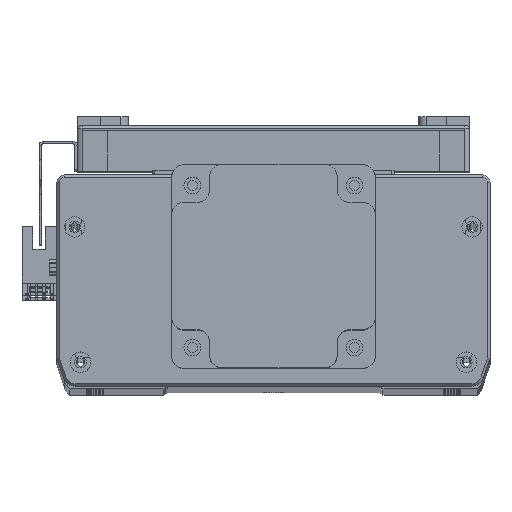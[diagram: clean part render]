
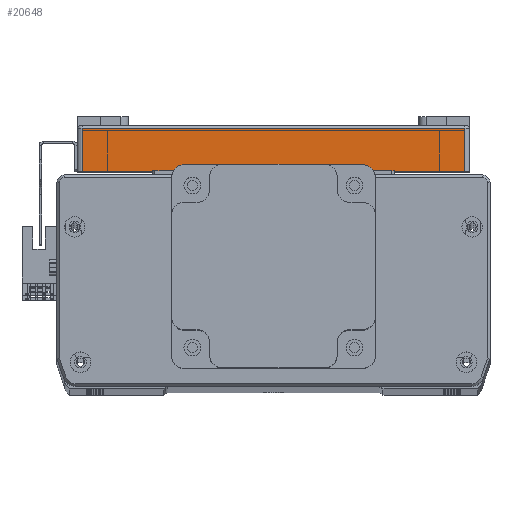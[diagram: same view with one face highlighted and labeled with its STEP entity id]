
A CAD part, top view. The second image highlights one B-rep face of the part: STEP entity #20648.
In plain terms, the highlighted planar face has unit normal (0, 0, 1) as drawn and (-1, 0, 0) by its records, which use the part's own axes.
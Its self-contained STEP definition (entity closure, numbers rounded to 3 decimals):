
#3165 = EDGE_LOOP ( 'NONE', ( #62923, #62898, #62919, #62773 ) ) ;
#7247 = VERTEX_POINT ( 'NONE', #68045 ) ;
#7249 = VERTEX_POINT ( 'NONE', #68052 ) ;
#7270 = VERTEX_POINT ( 'NONE', #68096 ) ;
#7278 = VERTEX_POINT ( 'NONE', #68102 ) ;
#20648 = ADVANCED_FACE ( 'NONE', ( #48583 ), #47765, .F. ) ;
#33151 = EDGE_CURVE ( 'NONE', #7278, #7270, #34499, .T. ) ;
#33153 = EDGE_CURVE ( 'NONE', #7270, #7249, #34521, .T. ) ;
#33223 = EDGE_CURVE ( 'NONE', #7249, #7247, #34554, .T. ) ;
#33247 = EDGE_CURVE ( 'NONE', #7247, #7278, #34536, .T. ) ;
#34493 = VECTOR ( 'NONE', #54409, 1000. ) ;
#34499 = LINE ( 'NONE', #54430, #34493 ) ;
#34521 = LINE ( 'NONE', #54408, #34523 ) ;
#34523 = VECTOR ( 'NONE', #54410, 1000. ) ;
#34536 = LINE ( 'NONE', #54566, #34590 ) ;
#34554 = LINE ( 'NONE', #54531, #34555 ) ;
#34555 = VECTOR ( 'NONE', #54499, 1000. ) ;
#34590 = VECTOR ( 'NONE', #54567, 1000. ) ;
#47738 = DIRECTION ( 'NONE',  ( 0., 0., -1. ) ) ;
#47765 = PLANE ( 'NONE',  #52845 ) ;
#47767 = CARTESIAN_POINT ( 'NONE',  ( -115., 18., -77. ) ) ;
#47785 = DIRECTION ( 'NONE',  ( 1., 0., 0. ) ) ;
#48583 = FACE_OUTER_BOUND ( 'NONE', #3165, .T. ) ;
#52845 = AXIS2_PLACEMENT_3D ( 'NONE', #47767, #47785, #47738 ) ;
#54408 = CARTESIAN_POINT ( 'NONE',  ( -115., 18., -75. ) ) ;
#54409 = DIRECTION ( 'NONE',  ( 0., 0., -1. ) ) ;
#54410 = DIRECTION ( 'NONE',  ( 0., -1., 0. ) ) ;
#54430 = CARTESIAN_POINT ( 'NONE',  ( -115., 17., -75. ) ) ;
#54499 = DIRECTION ( 'NONE',  ( 0., 0., 1. ) ) ;
#54531 = CARTESIAN_POINT ( 'NONE',  ( -115., 0., -77. ) ) ;
#54566 = CARTESIAN_POINT ( 'NONE',  ( -115., 18., 75. ) ) ;
#54567 = DIRECTION ( 'NONE',  ( 0., 1., 0. ) ) ;
#62773 = ORIENTED_EDGE ( 'NONE', *, *, #33223, .T. ) ;
#62898 = ORIENTED_EDGE ( 'NONE', *, *, #33151, .T. ) ;
#62919 = ORIENTED_EDGE ( 'NONE', *, *, #33153, .T. ) ;
#62923 = ORIENTED_EDGE ( 'NONE', *, *, #33247, .T. ) ;
#68045 = CARTESIAN_POINT ( 'NONE',  ( -115., 0., 75. ) ) ;
#68052 = CARTESIAN_POINT ( 'NONE',  ( -115., 0., -75. ) ) ;
#68096 = CARTESIAN_POINT ( 'NONE',  ( -115., 17., -75. ) ) ;
#68102 = CARTESIAN_POINT ( 'NONE',  ( -115., 17., 75. ) ) ;
